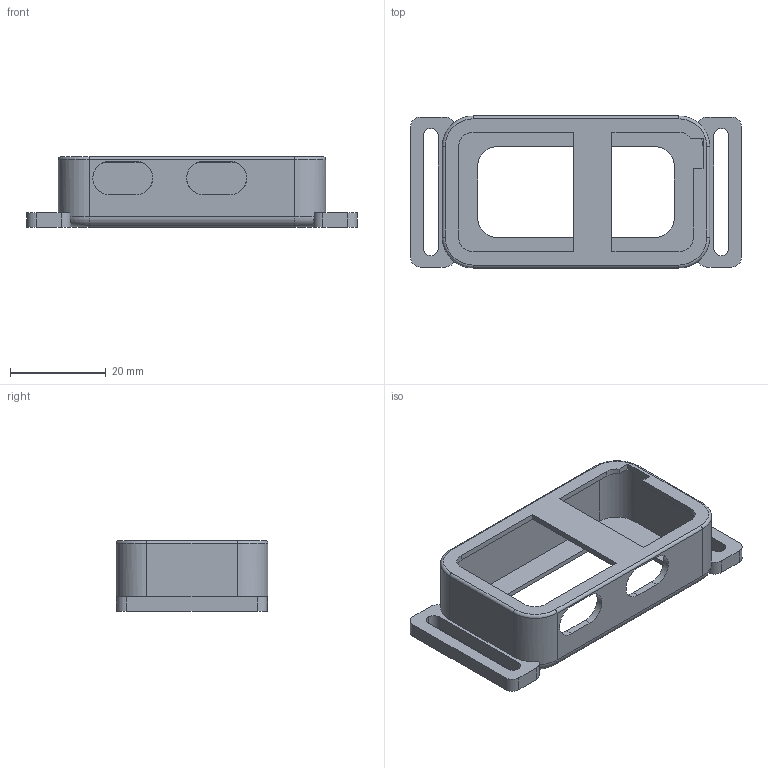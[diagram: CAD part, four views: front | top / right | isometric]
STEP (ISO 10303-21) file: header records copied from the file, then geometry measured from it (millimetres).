
FILE_DESCRIPTION(('Open CASCADE Model'),'2;1');
FILE_NAME('Open CASCADE Shape Model','2026-11-03T19:16:52',('Author'),( 'Open CASCADE'),'Open CASCADE STEP processor 7.9','Open CASCADE 7.9' ,'Unknown');
FILE_SCHEMA(('AUTOMOTIVE_DESIGN { 1 0 10303 214 1 1 1 1 }'));
Length unit declared in the file: millimetre
Products named in the file (1): Open CASCADE STEP translator 7.9 5
Bounding box: 69 x 31.7 x 14.7 mm (x, y, z)
Volume: 5081 mm3; surface area: 8234 mm2
Topology: 1 solids, 1 shells, 103 faces, 294 edges, 192 vertices
Faces by surface type: plane 53, cylinder 42, torus 8
Entity records: 7566 total; most frequent: CARTESIAN_POINT 1834, DIRECTION 1036, ORIENTED_EDGE 588, PCURVE 588, DEFINITIONAL_REPRESENTATION 588, LINE 554, VECTOR 554, EDGE_CURVE 294
